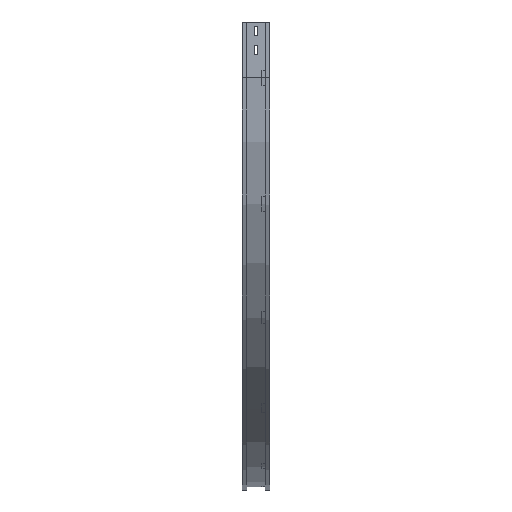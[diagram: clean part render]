
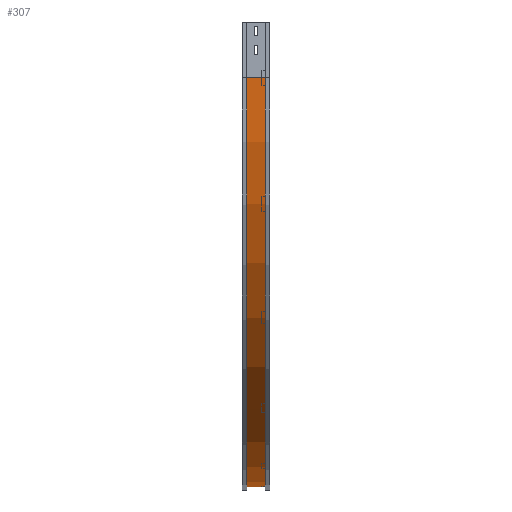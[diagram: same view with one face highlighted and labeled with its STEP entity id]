
A CAD part, left-side view. The second image highlights one B-rep face of the part: STEP entity #307.
In plain terms, the highlighted cylindrical face has radius 1100 mm (diameter 2200 mm), a partial arc.
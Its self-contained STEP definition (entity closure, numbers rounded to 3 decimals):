
#180 = LINE ( 'NONE', #2546, #929 ) ;
#198 = ORIENTED_EDGE ( 'NONE', *, *, #745, .T. ) ;
#276 = EDGE_LOOP ( 'NONE', ( #1177, #2166, #198, #2842 ) ) ;
#307 = ADVANCED_FACE ( 'NONE', ( #2568 ), #1717, .T. ) ;
#715 = CARTESIAN_POINT ( 'NONE',  ( 1109., 63., -150. ) ) ;
#732 = EDGE_CURVE ( 'NONE', #2026, #1029, #180, .T. ) ;
#745 = EDGE_CURVE ( 'NONE', #1399, #2026, #1531, .T. ) ;
#759 = CIRCLE ( 'NONE', #1869, 1100. ) ;
#929 = VECTOR ( 'NONE', #1241, 1000. ) ;
#980 = DIRECTION ( 'NONE',  ( -1., 0., 0. ) ) ;
#986 = DIRECTION ( 'NONE',  ( 0., 0., -1. ) ) ;
#1029 = VERTEX_POINT ( 'NONE', #1894 ) ;
#1031 = VECTOR ( 'NONE', #1510, 1000. ) ;
#1103 = CARTESIAN_POINT ( 'NONE',  ( 9., 63., -150. ) ) ;
#1111 = EDGE_CURVE ( 'NONE', #3069, #1029, #759, .T. ) ;
#1177 = ORIENTED_EDGE ( 'NONE', *, *, #1111, .F. ) ;
#1224 = DIRECTION ( 'NONE',  ( -1., 0., 0. ) ) ;
#1241 = DIRECTION ( 'NONE',  ( 0., -1., 0. ) ) ;
#1399 = VERTEX_POINT ( 'NONE', #1103 ) ;
#1510 = DIRECTION ( 'NONE',  ( 0., -1., 0. ) ) ;
#1531 = CIRCLE ( 'NONE', #2578, 1100. ) ;
#1712 = AXIS2_PLACEMENT_3D ( 'NONE', #1960, #2488, #986 ) ;
#1717 = CYLINDRICAL_SURFACE ( 'NONE', #1712, 1100. ) ;
#1755 = CARTESIAN_POINT ( 'NONE',  ( 9., 12., -150. ) ) ;
#1869 = AXIS2_PLACEMENT_3D ( 'NONE', #1965, #3020, #1224 ) ;
#1894 = CARTESIAN_POINT ( 'NONE',  ( 1109., 12., -1250. ) ) ;
#1960 = CARTESIAN_POINT ( 'NONE',  ( 1109., 0., -150. ) ) ;
#1965 = CARTESIAN_POINT ( 'NONE',  ( 1109., 12., -150. ) ) ;
#2026 = VERTEX_POINT ( 'NONE', #2569 ) ;
#2166 = ORIENTED_EDGE ( 'NONE', *, *, #2343, .F. ) ;
#2343 = EDGE_CURVE ( 'NONE', #1399, #3069, #3074, .T. ) ;
#2441 = CARTESIAN_POINT ( 'NONE',  ( 9., 12., -150. ) ) ;
#2488 = DIRECTION ( 'NONE',  ( 0., -1., 0. ) ) ;
#2546 = CARTESIAN_POINT ( 'NONE',  ( 1109., 12., -1250. ) ) ;
#2563 = DIRECTION ( 'NONE',  ( 0., -1., 0. ) ) ;
#2568 = FACE_OUTER_BOUND ( 'NONE', #276, .T. ) ;
#2569 = CARTESIAN_POINT ( 'NONE',  ( 1109., 63., -1250. ) ) ;
#2578 = AXIS2_PLACEMENT_3D ( 'NONE', #715, #2563, #980 ) ;
#2842 = ORIENTED_EDGE ( 'NONE', *, *, #732, .T. ) ;
#3020 = DIRECTION ( 'NONE',  ( 0., -1., 0. ) ) ;
#3069 = VERTEX_POINT ( 'NONE', #2441 ) ;
#3074 = LINE ( 'NONE', #1755, #1031 ) ;
